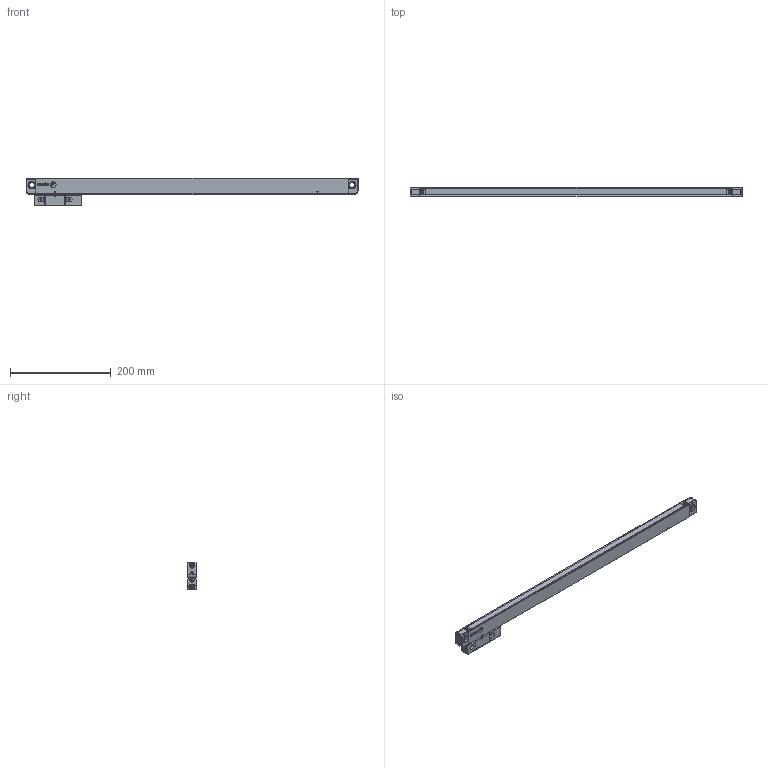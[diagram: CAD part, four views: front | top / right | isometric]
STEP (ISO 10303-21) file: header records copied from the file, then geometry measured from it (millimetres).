
FILE_DESCRIPTION(('Creo Elements/Direct Modeling STEP Export'),'2;1');
FILE_NAME('REGLA_S2-520-T.stp','2018-11-05T 9:54:05',(''),(''),'Creo Elements/Direct Modeling STEP processor for AP214 (Solid Model)','Creo Elements/Direct Modeling 19.0G 27-Nov-2017 (C) Parametric Technology GmbH','');
FILE_SCHEMA(('AUTOMOTIVE_DESIGN { 1 0 10303 214 1 1 1 1 }'));
Length unit declared in the file: millimetre
Products named in the file (3): CABEZA_ROSCADA_REGLA_S; REGLA_S-520-T; REGLA_S2-520-T
Assembly tree (2 placements, depth 2):
  REGLA_S2-520-T
    REGLA_S-520-T
    CABEZA_ROSCADA_REGLA_S
Bounding box: 658 x 18.3 x 54.3 mm (x, y, z)
Volume: 371202.1 mm3; surface area: 100722.2 mm2
Topology: 2 solids, 22 shells, 880 faces, 2250 edges, 1448 vertices
Faces by surface type: plane 354, cylinder 301, cone 174, bspline 38, torus 6, sphere 4, extrusion 3
Entity records: 30904 total; most frequent: CARTESIAN_POINT 7358, ORIENTED_EDGE 4472, DIRECTION 3788, EDGE_CURVE 2236, VERTEX_POINT 1448, AXIS2_PLACEMENT_3D 1296, VECTOR 1196, LINE 1193
